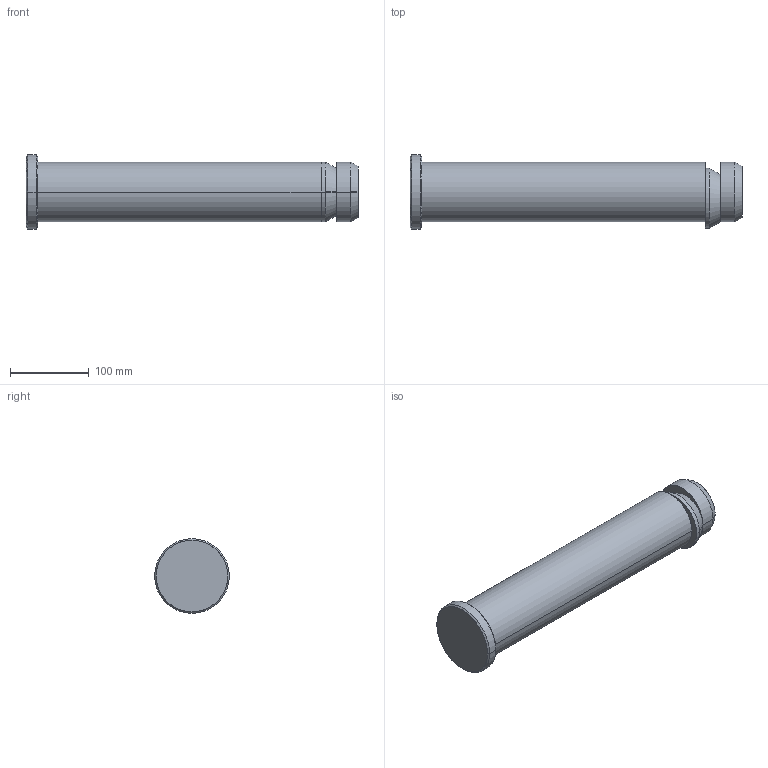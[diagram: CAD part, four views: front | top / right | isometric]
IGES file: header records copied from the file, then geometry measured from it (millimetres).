
Start section: START RECORD GO HERE.
Global section: file name: 395W-076-422.igs; native system: DASSAULT SYSTEMES CATIA V5 R20 - www.3ds.com; preprocessor: CATIA Version 5 Release 20 ; author: Utente; organization: NB04-ASUS; date: 20200410.165419; units: millimetre
Bounding box: 422 x 95 x 95 mm (x, y, z)
Surface area: 128760.4 mm2 (no closed solid volume)
Topology: 0 solids, 0 shells, 27 faces, 116 edges, 116 vertices
Faces by surface type: revolution 20, extrusion 7
